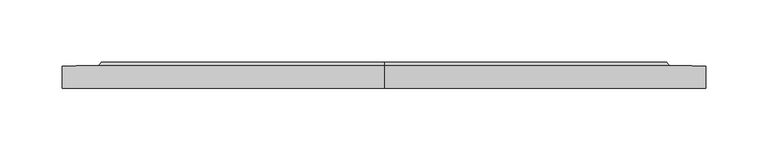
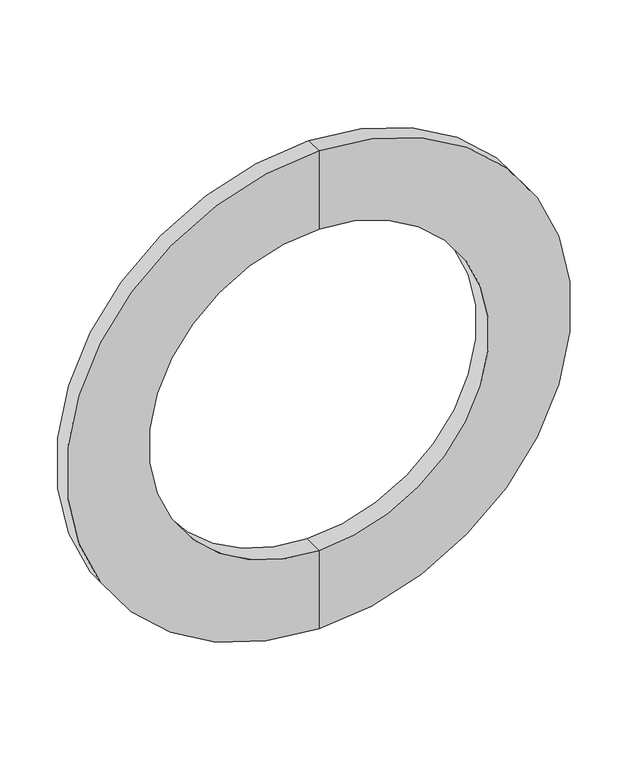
"""IFC4 building model written with IfcOpenShell, lengths in millimetres: pipe fitting geometry, Фланец : Фланец."""

from ifc_helpers import new_model, si_unit, frame, origin, place, context, project, spatial, polyline, circle_curve, source, transform, mapped, element, save
from ifc_brep_helpers import plane_surface, cylinder_surface, revolved_surface, advanced_brep


def pipe_fitting_e0bd70e7(model_context):
    return source(origin(), model_context, "Body", "AdvancedBrep", [
        advanced_brep(
        [(0.0, 0.0, -260.0), (0.0, 0.0, 260.0), (0.0, 17.9, 260.0), (0.0, 17.9, -260.0), (0.0, 0.0, -175.0), (0.0, 0.0, 175.0), (0.0, 20.9, -175.0), (0.0, 20.9, 175.0), (0.0, 20.9, -228.5), (0.0, 20.9, 228.5), (0.0, 17.9, -231.0), (0.0, 17.9, 231.0)],
        [
            (0, 1, circle_curve(frame((0.0, 0.0, 0.0), z_axis=(0.0, 1.0, 0.0), x_axis=(0.0, 0.0, 1.0)), 260.0)),
            (1, 2),
            (2, 3, circle_curve(frame((0.0, 17.9, 0.0), z_axis=(0.0, -1.0, 0.0), x_axis=(0.0, 0.0, 1.0)), 260.0)),
            (3, 0),
            (1, 0, circle_curve(frame((0.0, 0.0, 0.0), z_axis=(0.0, 1.0, 0.0), x_axis=(0.0, 0.0, 1.0)), 260.0)),
            (3, 2, circle_curve(frame((0.0, 17.9, 0.0), z_axis=(0.0, -1.0, 0.0), x_axis=(0.0, 0.0, 1.0)), 260.0)),
            (4, 5, circle_curve(frame((0.0, 0.0, 0.0), z_axis=(0.0, 1.0, 0.0), x_axis=(0.0, 0.0, 1.0)), 175.0)),
            (5, 1),
            (0, 4),
            (5, 4, circle_curve(frame((0.0, 0.0, 0.0), z_axis=(0.0, 1.0, 0.0), x_axis=(0.0, 0.0, 1.0)), 175.0)),
            (6, 7, circle_curve(frame((0.0, 20.9, 0.0), z_axis=(0.0, 1.0, 0.0), x_axis=(0.0, 0.0, 1.0)), 175.0)),
            (7, 5),
            (4, 6),
            (7, 6, circle_curve(frame((0.0, 20.9, 0.0), z_axis=(0.0, 1.0, 0.0), x_axis=(0.0, 0.0, 1.0)), 175.0)),
            (8, 9, circle_curve(frame((0.0, 20.9, 0.0), z_axis=(0.0, 1.0, 0.0), x_axis=(0.0, 0.0, 1.0)), 228.5)),
            (9, 7),
            (6, 8),
            (9, 8, circle_curve(frame((0.0, 20.9, 0.0), z_axis=(0.0, 1.0, 0.0), x_axis=(0.0, 0.0, 1.0)), 228.5)),
            (10, 11, circle_curve(frame((0.0, 17.9, 0.0), z_axis=(0.0, 1.0, 0.0), x_axis=(0.0, 0.0, 1.0)), 231.0)),
            (11, 9),
            (8, 10),
            (11, 10, circle_curve(frame((0.0, 17.9, 0.0), z_axis=(0.0, 1.0, 0.0), x_axis=(0.0, 0.0, 1.0)), 231.0)),
            (2, 11),
            (10, 3),
        ],
        [
            cylinder_surface(frame((0.0, -60.0, 0.0), z_axis=(0.0, -1.0, 0.0), x_axis=(0.0, 0.0, 1.0)), 260.0),
            plane_surface(frame((0.0, 0.0, 0.0), z_axis=(0.0, -1.0, 0.0), x_axis=(0.0, 0.0, 1.0))),
            revolved_surface(polyline([(0.0, 0.0, 175.0), (0.0, 20.900000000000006, 175.0)]), (0.0, -60.0, 0.0), (0.0, -1.0, 0.0)),
            plane_surface(frame((0.0, 20.9, 0.0), z_axis=(0.0, 1.0, 0.0), x_axis=(0.0, 0.0, 1.0))),
            revolved_surface(polyline([(0.0, 20.9, 228.5), (0.0, 17.9, 231.0)]), (0.0, -60.0, 0.0), (0.0, -1.0, 0.0)),
            plane_surface(frame((0.0, 17.9, 0.0), z_axis=(0.0, 1.0, 0.0), x_axis=(0.0, 0.0, 1.0))),
        ],
        [
            (0, [[1, 2, 3, 4]]),
            (0, [[5, -4, 6, -2]]),
            (1, [[7, 8, -1, 9]]),
            (1, [[10, -9, -5, -8]]),
            (2, [[11, 12, -7, 13]]),
            (2, [[14, -13, -10, -12]]),
            (3, [[15, 16, -11, 17]]),
            (3, [[18, -17, -14, -16]]),
            (4, [[19, 20, -15, 21]]),
            (4, [[22, -21, -18, -20]]),
            (5, [[-3, 23, -19, 24]]),
            (5, [[-6, -24, -22, -23]]),
        ],
    ),
    ])


if __name__ == "__main__":
    model = new_model("IFC4")
    model_context = context("Model", 3, world=origin())
    ifc_project = project(units=[si_unit("LENGTHUNIT", "METRE", prefix="MILLI")], contexts=[model_context])
    site = spatial("IfcSite", under=ifc_project)
    building = spatial("IfcBuilding", under=site)
    placement = place(None, origin())
    pipe_fitting_shape = pipe_fitting_e0bd70e7(model_context)
    element("IfcPipeFitting", 1, ObjectType="Фланец : Фланец", at=placement, inside=building, context=model_context, shape_type="MappedRepresentation", body=[
        mapped(pipe_fitting_shape, transform((0.0, 0.0, 0.0), x_axis=(1.0, 0.0, 0.0), y_axis=(0.0, 1.0, 0.0), z_axis=(0.0, 0.0, 1.0))),
    ])
    save(model, "model.ifc")
